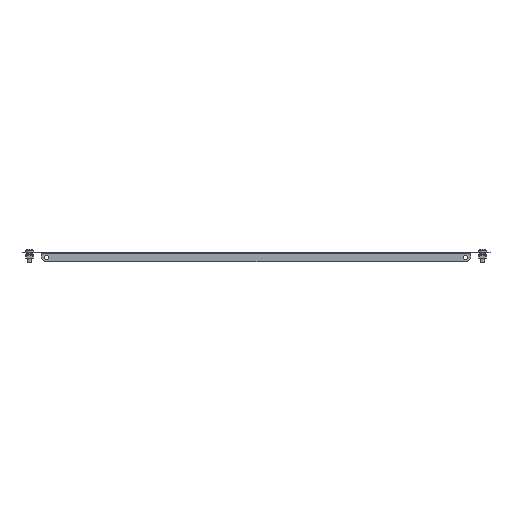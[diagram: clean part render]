
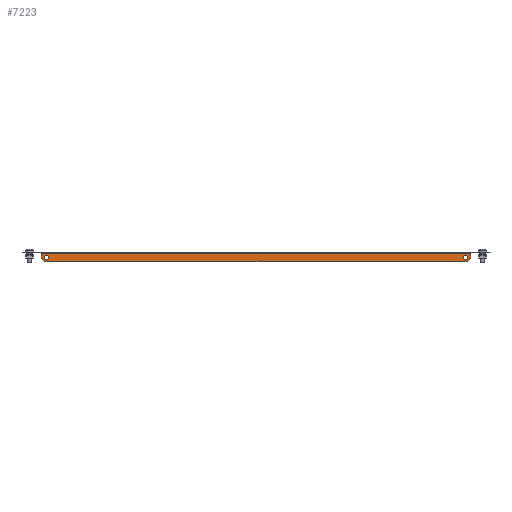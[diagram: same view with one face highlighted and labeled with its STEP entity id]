
A CAD part, front view. The second image highlights one B-rep face of the part: STEP entity #7223.
In plain terms, the highlighted planar face has unit normal (0, -1, 0).
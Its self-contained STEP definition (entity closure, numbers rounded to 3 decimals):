
#88 = CARTESIAN_POINT ( 'NONE',  ( 307., -299.5, -8. ) ) ;
#124 = CARTESIAN_POINT ( 'NONE',  ( -315., -299.5, -9. ) ) ;
#169 = CARTESIAN_POINT ( 'NONE',  ( -307., -299.5, -4.75 ) ) ;
#177 = ORIENTED_EDGE ( 'NONE', *, *, #2341, .T. ) ;
#407 = DIRECTION ( 'NONE',  ( 0.707, 0., 0.707 ) ) ;
#478 = ORIENTED_EDGE ( 'NONE', *, *, #1815, .T. ) ;
#495 = DIRECTION ( 'NONE',  ( 0., 0., -1. ) ) ;
#656 = VECTOR ( 'NONE', #495, 1000. ) ;
#755 = CARTESIAN_POINT ( 'NONE',  ( 0., -299.5, -14. ) ) ;
#770 = PLANE ( 'NONE',  #2046 ) ;
#953 = AXIS2_PLACEMENT_3D ( 'NONE', #4268, #2290, #8072 ) ;
#1016 = CARTESIAN_POINT ( 'NONE',  ( 162., -299.5, -162. ) ) ;
#1222 = VERTEX_POINT ( 'NONE', #7125 ) ;
#1281 = CARTESIAN_POINT ( 'NONE',  ( -315., -299.5, 0. ) ) ;
#1410 = VERTEX_POINT ( 'NONE', #169 ) ;
#1452 = DIRECTION ( 'NONE',  ( 1., 0., 0. ) ) ;
#1604 = AXIS2_PLACEMENT_3D ( 'NONE', #88, #6489, #5164 ) ;
#1610 = VECTOR ( 'NONE', #7718, 1000. ) ;
#1815 = EDGE_CURVE ( 'NONE', #2345, #1222, #7012, .T. ) ;
#1834 = VERTEX_POINT ( 'NONE', #124 ) ;
#2039 = CARTESIAN_POINT ( 'NONE',  ( 307., -299.5, -4.75 ) ) ;
#2046 = AXIS2_PLACEMENT_3D ( 'NONE', #5926, #4717, #3453 ) ;
#2079 = ORIENTED_EDGE ( 'NONE', *, *, #3901, .F. ) ;
#2160 = DIRECTION ( 'NONE',  ( 0.707, 0., -0.707 ) ) ;
#2290 = DIRECTION ( 'NONE',  ( 0., 1., 0. ) ) ;
#2341 = EDGE_CURVE ( 'NONE', #4056, #1834, #6188, .T. ) ;
#2345 = VERTEX_POINT ( 'NONE', #5537 ) ;
#2514 = VECTOR ( 'NONE', #1452, 1000. ) ;
#2533 = DIRECTION ( 'NONE',  ( -1., 0., 0. ) ) ;
#2765 = FACE_OUTER_BOUND ( 'NONE', #4727, .T. ) ;
#2876 = ORIENTED_EDGE ( 'NONE', *, *, #7829, .T. ) ;
#2898 = ORIENTED_EDGE ( 'NONE', *, *, #5997, .T. ) ;
#2901 = LINE ( 'NONE', #1016, #3227 ) ;
#3227 = VECTOR ( 'NONE', #407, 1000. ) ;
#3374 = FACE_BOUND ( 'NONE', #6311, .T. ) ;
#3416 = CARTESIAN_POINT ( 'NONE',  ( 315., -299.5, 0. ) ) ;
#3453 = DIRECTION ( 'NONE',  ( 0., 0., 1. ) ) ;
#3758 = CARTESIAN_POINT ( 'NONE',  ( 0., -299.5, -2. ) ) ;
#3901 = EDGE_CURVE ( 'NONE', #7145, #7145, #4792, .T. ) ;
#3971 = ORIENTED_EDGE ( 'NONE', *, *, #4659, .T. ) ;
#4005 = CARTESIAN_POINT ( 'NONE',  ( 315., -299.5, -9. ) ) ;
#4025 = CARTESIAN_POINT ( 'NONE',  ( 315., -299.5, -2. ) ) ;
#4034 = LINE ( 'NONE', #3416, #1610 ) ;
#4056 = VERTEX_POINT ( 'NONE', #7045 ) ;
#4268 = CARTESIAN_POINT ( 'NONE',  ( -307., -299.5, -8. ) ) ;
#4533 = CIRCLE ( 'NONE', #953, 3.25 ) ;
#4642 = LINE ( 'NONE', #4767, #6647 ) ;
#4659 = EDGE_CURVE ( 'NONE', #7856, #5036, #4034, .T. ) ;
#4717 = DIRECTION ( 'NONE',  ( 0., -1., 0. ) ) ;
#4727 = EDGE_LOOP ( 'NONE', ( #478, #6736, #3971, #2876, #177, #2898 ) ) ;
#4767 = CARTESIAN_POINT ( 'NONE',  ( -162., -299.5, -162. ) ) ;
#4792 = CIRCLE ( 'NONE', #1604, 3.25 ) ;
#5036 = VERTEX_POINT ( 'NONE', #4025 ) ;
#5164 = DIRECTION ( 'NONE',  ( 0., 0., 1. ) ) ;
#5237 = EDGE_CURVE ( 'NONE', #1410, #1410, #4533, .T. ) ;
#5537 = CARTESIAN_POINT ( 'NONE',  ( -310., -299.5, -14. ) ) ;
#5841 = FACE_BOUND ( 'NONE', #6306, .T. ) ;
#5926 = CARTESIAN_POINT ( 'NONE',  ( 0., -299.5, 0. ) ) ;
#5997 = EDGE_CURVE ( 'NONE', #1834, #2345, #4642, .T. ) ;
#6188 = LINE ( 'NONE', #1281, #656 ) ;
#6306 = EDGE_LOOP ( 'NONE', ( #2079 ) ) ;
#6311 = EDGE_LOOP ( 'NONE', ( #7584 ) ) ;
#6489 = DIRECTION ( 'NONE',  ( 0., -1., 0. ) ) ;
#6647 = VECTOR ( 'NONE', #2160, 1000. ) ;
#6736 = ORIENTED_EDGE ( 'NONE', *, *, #7885, .T. ) ;
#6932 = LINE ( 'NONE', #3758, #8043 ) ;
#7012 = LINE ( 'NONE', #755, #2514 ) ;
#7045 = CARTESIAN_POINT ( 'NONE',  ( -315., -299.5, -2. ) ) ;
#7125 = CARTESIAN_POINT ( 'NONE',  ( 310., -299.5, -14. ) ) ;
#7145 = VERTEX_POINT ( 'NONE', #2039 ) ;
#7223 = ADVANCED_FACE ( 'NONE', ( #5841, #3374, #2765 ), #770, .T. ) ;
#7584 = ORIENTED_EDGE ( 'NONE', *, *, #5237, .T. ) ;
#7718 = DIRECTION ( 'NONE',  ( 0., 0., 1. ) ) ;
#7829 = EDGE_CURVE ( 'NONE', #5036, #4056, #6932, .T. ) ;
#7856 = VERTEX_POINT ( 'NONE', #4005 ) ;
#7885 = EDGE_CURVE ( 'NONE', #1222, #7856, #2901, .T. ) ;
#8043 = VECTOR ( 'NONE', #2533, 1000. ) ;
#8072 = DIRECTION ( 'NONE',  ( 0., 0., 1. ) ) ;
